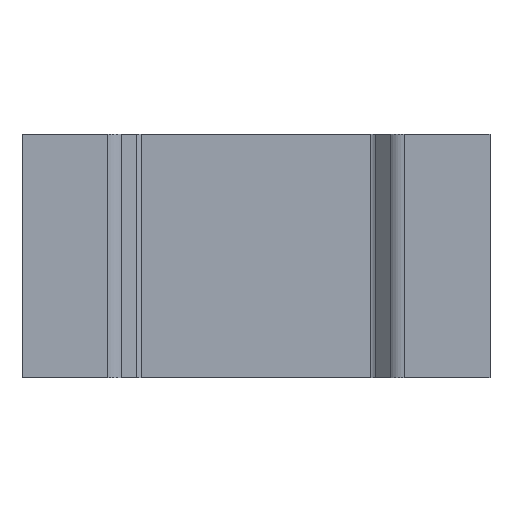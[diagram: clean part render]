
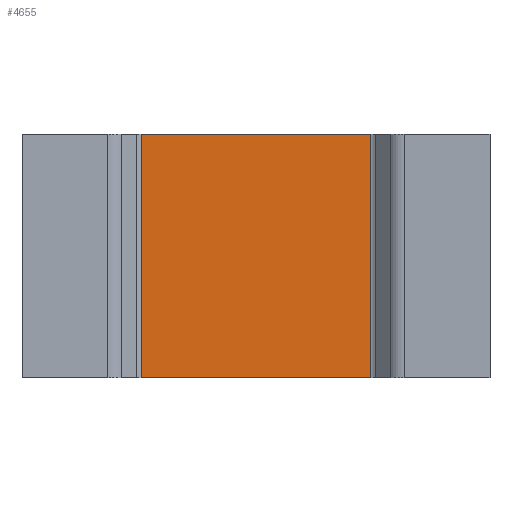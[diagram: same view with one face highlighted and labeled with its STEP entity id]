
A CAD part, front view. The second image highlights one B-rep face of the part: STEP entity #4655.
In plain terms, the highlighted planar face has unit normal (0, -1, 0).
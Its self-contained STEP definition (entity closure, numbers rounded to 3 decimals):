
#357 = CARTESIAN_POINT ( 'NONE',  ( 2.45, 0.5, 2.6 ) ) ;
#381 = ORIENTED_EDGE ( 'NONE', *, *, #5331, .T. ) ;
#576 = VECTOR ( 'NONE', #1895, 1000. ) ;
#883 = VECTOR ( 'NONE', #5471, 1000. ) ;
#916 = ORIENTED_EDGE ( 'NONE', *, *, #2992, .F. ) ;
#964 = ORIENTED_EDGE ( 'NONE', *, *, #3643, .F. ) ;
#1040 = PLANE ( 'NONE',  #5733 ) ;
#1051 = LINE ( 'NONE', #1078, #1925 ) ;
#1078 = CARTESIAN_POINT ( 'NONE',  ( 2.45, 0.5, -7.516 ) ) ;
#1097 = DIRECTION ( 'NONE',  ( 0., -1., 0. ) ) ;
#1238 = CARTESIAN_POINT ( 'NONE',  ( -2.45, 0.5, 2.6 ) ) ;
#1791 = LINE ( 'NONE', #1238, #576 ) ;
#1895 = DIRECTION ( 'NONE',  ( 1., 0., 0. ) ) ;
#1912 = LINE ( 'NONE', #3897, #4002 ) ;
#1925 = VECTOR ( 'NONE', #3057, 1000. ) ;
#2391 = CARTESIAN_POINT ( 'NONE',  ( -2.45, 0.5, -2.6 ) ) ;
#2811 = VERTEX_POINT ( 'NONE', #357 ) ;
#2895 = LINE ( 'NONE', #5350, #883 ) ;
#2992 = EDGE_CURVE ( 'NONE', #4557, #2811, #1791, .T. ) ;
#3044 = CARTESIAN_POINT ( 'NONE',  ( -2.45, 0.5, 2.6 ) ) ;
#3057 = DIRECTION ( 'NONE',  ( 0., 0., 1. ) ) ;
#3643 = EDGE_CURVE ( 'NONE', #6105, #3943, #2895, .T. ) ;
#3897 = CARTESIAN_POINT ( 'NONE',  ( -2.45, 0.5, -7.516 ) ) ;
#3914 = ORIENTED_EDGE ( 'NONE', *, *, #5934, .F. ) ;
#3943 = VERTEX_POINT ( 'NONE', #2391 ) ;
#3992 = CARTESIAN_POINT ( 'NONE',  ( -2.45, 0.5, -7.516 ) ) ;
#4002 = VECTOR ( 'NONE', #5857, 1000. ) ;
#4557 = VERTEX_POINT ( 'NONE', #3044 ) ;
#4655 = ADVANCED_FACE ( 'NONE', ( #5922 ), #1040, .T. ) ;
#5019 = DIRECTION ( 'NONE',  ( 0., 0., -1. ) ) ;
#5044 = EDGE_LOOP ( 'NONE', ( #964, #381, #916, #3914 ) ) ;
#5331 = EDGE_CURVE ( 'NONE', #6105, #2811, #1051, .T. ) ;
#5350 = CARTESIAN_POINT ( 'NONE',  ( -2.45, 0.5, -2.6 ) ) ;
#5471 = DIRECTION ( 'NONE',  ( -1., 0., 0. ) ) ;
#5723 = CARTESIAN_POINT ( 'NONE',  ( 2.45, 0.5, -2.6 ) ) ;
#5733 = AXIS2_PLACEMENT_3D ( 'NONE', #3992, #1097, #5019 ) ;
#5857 = DIRECTION ( 'NONE',  ( 0., 0., 1. ) ) ;
#5922 = FACE_OUTER_BOUND ( 'NONE', #5044, .T. ) ;
#5934 = EDGE_CURVE ( 'NONE', #3943, #4557, #1912, .T. ) ;
#6105 = VERTEX_POINT ( 'NONE', #5723 ) ;
